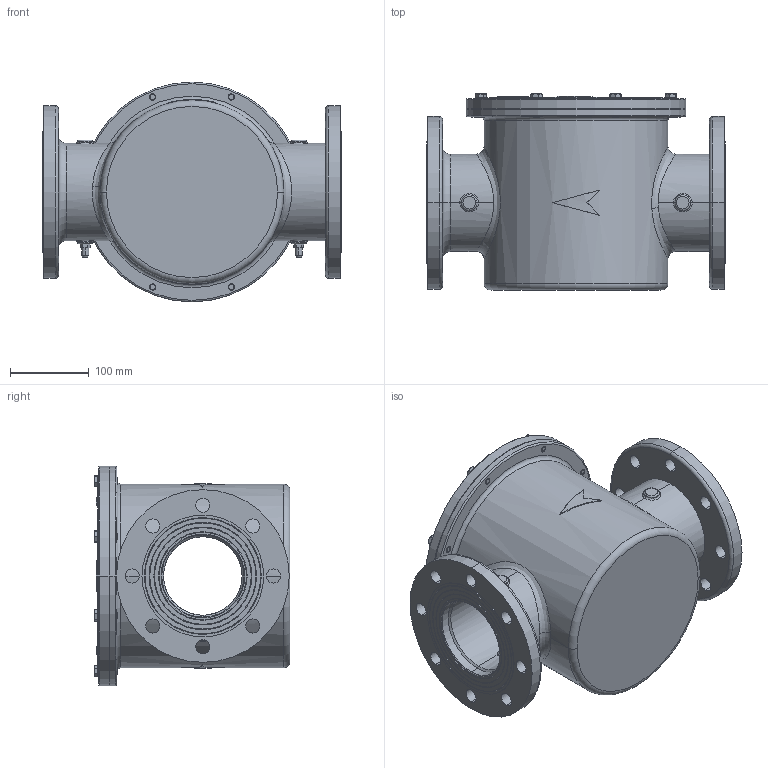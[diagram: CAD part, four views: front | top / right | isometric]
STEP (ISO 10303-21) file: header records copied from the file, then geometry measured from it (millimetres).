
FILE_DESCRIPTION (( 'STEP AP203' ), '1' );
FILE_NAME ('007.0054.100.STEP', '2017-09-14T11:40:45', ( 'Windows User' ), ( 'Watts Water' ), 'SwSTEP 2.0', 'SolidWorks 2017', '' );
FILE_SCHEMA (( 'CONFIG_CONTROL_DESIGN' ));
Length unit declared in the file: millimetre
Products named in the file (1): 007.0054.100
Bounding box: 380 x 249.6 x 280 mm (x, y, z)
Volume: 4034257.9 mm3; surface area: 847813.8 mm2
Topology: 20 solids, 20 shells, 961 faces, 2250 edges, 1381 vertices
Faces by surface type: plane 402, cylinder 281, cone 131, bspline 96, torus 51
Entity records: 36316 total; most frequent: CARTESIAN_POINT 14718, ORIENTED_EDGE 4482, DIRECTION 4335, EDGE_CURVE 2241, AXIS2_PLACEMENT_3D 1613, VERTEX_POINT 1381, EDGE_LOOP 1114, VECTOR 1109
